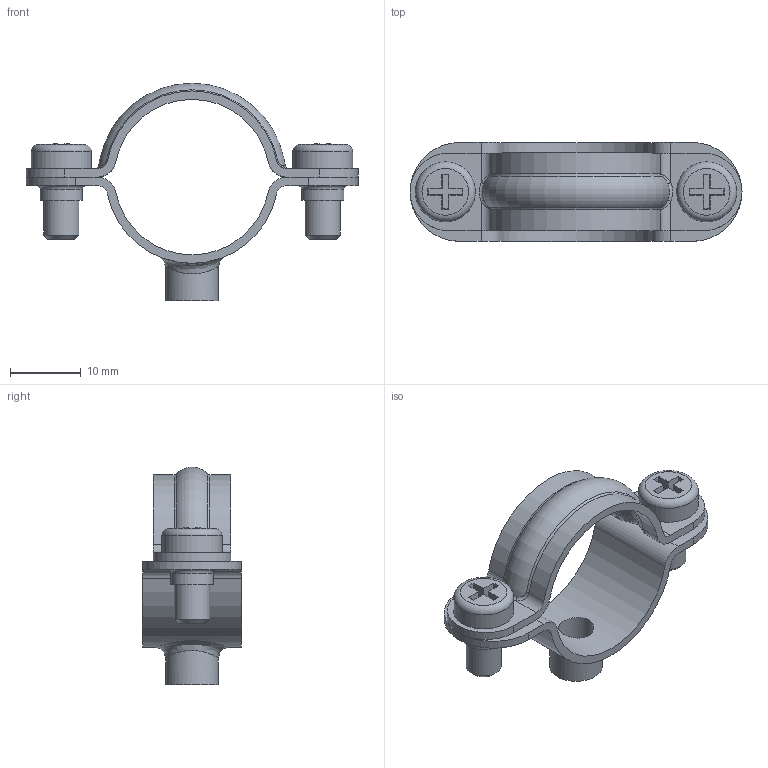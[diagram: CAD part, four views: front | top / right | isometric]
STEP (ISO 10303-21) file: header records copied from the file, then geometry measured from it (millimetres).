
FILE_DESCRIPTION(/* description */ (''),/* implementation_level */ '2;1');
FILE_NAME(/* name */ '4010273.stp',/* time_stamp */ '2019-03-05T02:25:52+01:00',/* author */ (''),/* organization */ (''),/* preprocessor_version */ 'ST-DEVELOPER v16.7',/* originating_system */ 'SIEMENS PLM Software NX 12.0',/* authorisation */ '');
FILE_SCHEMA (('AUTOMOTIVE_DESIGN { 1 0 10303 214 3 1 1 1 }'));
Length unit declared in the file: millimetre
Products named in the file (1): BSOM0DCCF74Fwdm1
Bounding box: 47 x 14 x 30.78 mm (x, y, z)
Volume: 2500.3 mm3; surface area: 4127.2 mm2
Topology: 4 solids, 4 shells, 106 faces, 261 edges, 168 vertices
Faces by surface type: plane 45, cylinder 34, bspline 13, torus 10, cone 2, sphere 2
Full cylindrical faces by diameter (mm): 4 x2, 5 x3, 5.7 x2, 6 x2, 7.5 x1, 8.5 x2
Entity records: 3661 total; most frequent: CARTESIAN_POINT 1233, DIRECTION 500, ORIENTED_EDGE 462, EDGE_CURVE 231, AXIS2_PLACEMENT_3D 202, VERTEX_POINT 159, EDGE_LOOP 142, CIRCLE 108
